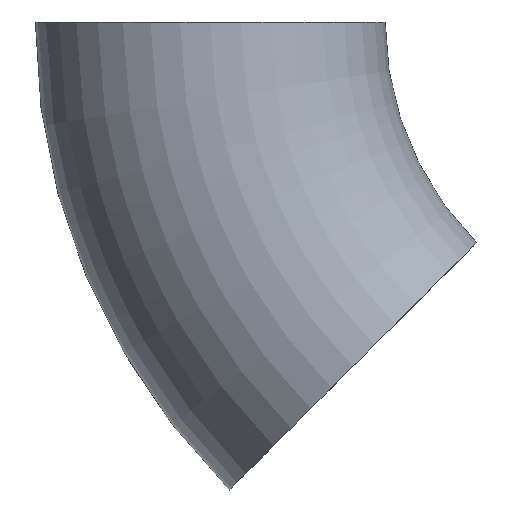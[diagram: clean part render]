
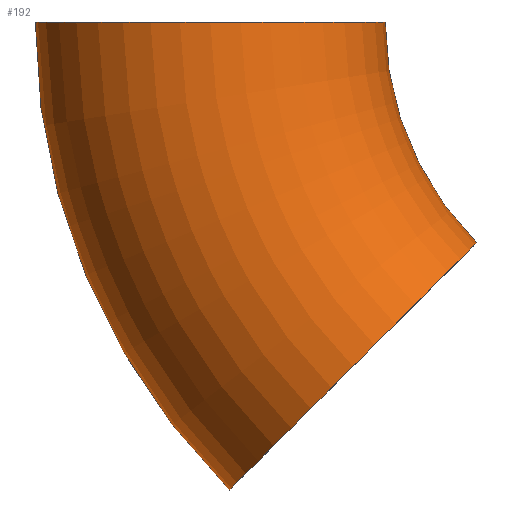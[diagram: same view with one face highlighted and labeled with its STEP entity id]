
A CAD part, front view. The second image highlights one B-rep face of the part: STEP entity #192.
In plain terms, the highlighted toroidal (fillet/blend) face has major radius 305 mm and minor radius 109.55 mm.
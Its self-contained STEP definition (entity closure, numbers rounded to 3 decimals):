
#6 = DIRECTION ( 'NONE',  ( 0.707, 0., 0.707 ) ) ;
#7 = CARTESIAN_POINT ( 'NONE',  ( -414.55, 0., 0. ) ) ;
#32 = CIRCLE ( 'NONE', #41, 195.45 ) ;
#34 = CARTESIAN_POINT ( 'NONE',  ( 0., 0., 0. ) ) ;
#40 = AXIS2_PLACEMENT_3D ( 'NONE', #103, #47, #125 ) ;
#41 = AXIS2_PLACEMENT_3D ( 'NONE', #34, #231, #207 ) ;
#42 = EDGE_LOOP ( 'NONE', ( #95, #199, #64, #59 ) ) ;
#44 = VERTEX_POINT ( 'NONE', #7 ) ;
#47 = DIRECTION ( 'NONE',  ( 0., 1., 0. ) ) ;
#57 = AXIS2_PLACEMENT_3D ( 'NONE', #102, #224, #202 ) ;
#59 = ORIENTED_EDGE ( 'NONE', *, *, #112, .F. ) ;
#62 = TOROIDAL_SURFACE ( 'NONE', #155, 305., 109.55 ) ;
#64 = ORIENTED_EDGE ( 'NONE', *, *, #185, .T. ) ;
#76 = EDGE_CURVE ( 'NONE', #80, #247, #232, .T. ) ;
#80 = VERTEX_POINT ( 'NONE', #118 ) ;
#87 = CIRCLE ( 'NONE', #40, 414.55 ) ;
#90 = CARTESIAN_POINT ( 'NONE',  ( 0., 0., 0. ) ) ;
#95 = ORIENTED_EDGE ( 'NONE', *, *, #134, .F. ) ;
#102 = CARTESIAN_POINT ( 'NONE',  ( -305., 0., 0. ) ) ;
#103 = CARTESIAN_POINT ( 'NONE',  ( 0., 0., 0. ) ) ;
#109 = FACE_OUTER_BOUND ( 'NONE', #42, .T. ) ;
#112 = EDGE_CURVE ( 'NONE', #44, #116, #164, .T. ) ;
#116 = VERTEX_POINT ( 'NONE', #203 ) ;
#118 = CARTESIAN_POINT ( 'NONE',  ( -293.131, 0., -293.131 ) ) ;
#119 = DIRECTION ( 'NONE',  ( -0.707, 0., 0.707 ) ) ;
#125 = DIRECTION ( 'NONE',  ( 0., 0., 1. ) ) ;
#134 = EDGE_CURVE ( 'NONE', #80, #44, #87, .T. ) ;
#138 = CARTESIAN_POINT ( 'NONE',  ( -215.668, 0., -215.668 ) ) ;
#143 = DIRECTION ( 'NONE',  ( 0., 0., 1. ) ) ;
#146 = AXIS2_PLACEMENT_3D ( 'NONE', #138, #119, #6 ) ;
#155 = AXIS2_PLACEMENT_3D ( 'NONE', #90, #160, #143 ) ;
#160 = DIRECTION ( 'NONE',  ( 0., 1., 0. ) ) ;
#164 = CIRCLE ( 'NONE', #57, 109.55 ) ;
#185 = EDGE_CURVE ( 'NONE', #247, #116, #32, .T. ) ;
#192 = ADVANCED_FACE ( 'NONE', ( #109 ), #62, .T. ) ;
#199 = ORIENTED_EDGE ( 'NONE', *, *, #76, .T. ) ;
#202 = DIRECTION ( 'NONE',  ( 1., 0., 0. ) ) ;
#203 = CARTESIAN_POINT ( 'NONE',  ( -195.45, 0., 0. ) ) ;
#207 = DIRECTION ( 'NONE',  ( 0., 0., 1. ) ) ;
#224 = DIRECTION ( 'NONE',  ( 0., 0., 1. ) ) ;
#229 = CARTESIAN_POINT ( 'NONE',  ( -138.204, 0., -138.204 ) ) ;
#231 = DIRECTION ( 'NONE',  ( 0., 1., 0. ) ) ;
#232 = CIRCLE ( 'NONE', #146, 109.55 ) ;
#247 = VERTEX_POINT ( 'NONE', #229 ) ;
